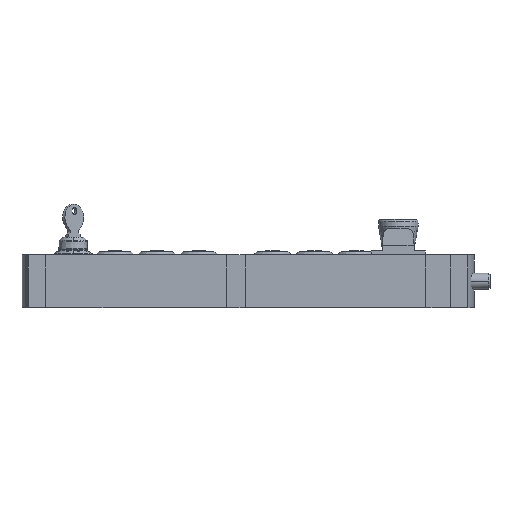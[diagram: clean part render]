
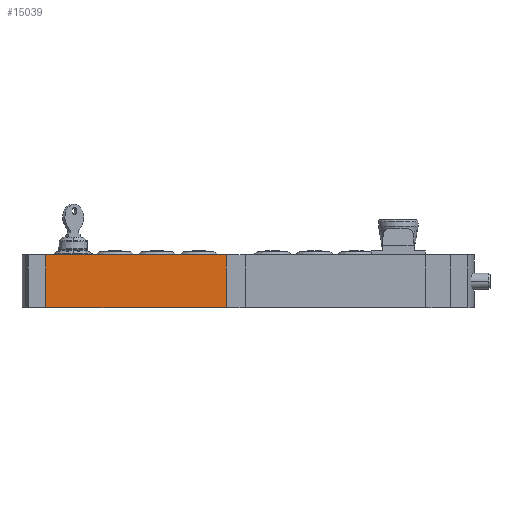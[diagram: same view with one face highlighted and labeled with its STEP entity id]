
A CAD part, left-side view. The second image highlights one B-rep face of the part: STEP entity #15039.
In plain terms, the highlighted planar face has unit normal (-1, 0, 0) as drawn and (0, 0, 1) by its records, which use the part's own axes.
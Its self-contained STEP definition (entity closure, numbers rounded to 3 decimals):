
#787 = ORIENTED_EDGE ( 'NONE', *, *, #16933, .T. ) ;
#822 = EDGE_LOOP ( 'NONE', ( #787, #5208, #20571, #6503 ) ) ;
#1605 = AXIS2_PLACEMENT_3D ( 'NONE', #8706, #31258, #11735 ) ;
#2924 = EDGE_CURVE ( 'NONE', #16541, #27056, #13500, .T. ) ;
#4048 = CARTESIAN_POINT ( 'NONE',  ( 68.35, 40., 20. ) ) ;
#4694 = VECTOR ( 'NONE', #36951, 1000. ) ;
#5208 = ORIENTED_EDGE ( 'NONE', *, *, #35706, .F. ) ;
#6150 = CARTESIAN_POINT ( 'NONE',  ( -68.35, 0., 20. ) ) ;
#6503 = ORIENTED_EDGE ( 'NONE', *, *, #2924, .T. ) ;
#8706 = CARTESIAN_POINT ( 'NONE',  ( -68.35, 40., 20. ) ) ;
#9435 = VERTEX_POINT ( 'NONE', #26372 ) ;
#11601 = VERTEX_POINT ( 'NONE', #23735 ) ;
#11735 = DIRECTION ( 'NONE',  ( -1., 0., 0. ) ) ;
#13500 = LINE ( 'NONE', #27507, #22115 ) ;
#13657 = LINE ( 'NONE', #16309, #4694 ) ;
#15039 = ADVANCED_FACE ( 'NONE', ( #20466 ), #32000, .F. ) ;
#15597 = DIRECTION ( 'NONE',  ( 0., -1., 0. ) ) ;
#16309 = CARTESIAN_POINT ( 'NONE',  ( -68.35, 40., 20. ) ) ;
#16541 = VERTEX_POINT ( 'NONE', #24804 ) ;
#16933 = EDGE_CURVE ( 'NONE', #27056, #11601, #20172, .T. ) ;
#17136 = DIRECTION ( 'NONE',  ( 1., 0., 0. ) ) ;
#18822 = LINE ( 'NONE', #4048, #19885 ) ;
#19885 = VECTOR ( 'NONE', #15597, 1000. ) ;
#20172 = LINE ( 'NONE', #6150, #29232 ) ;
#20466 = FACE_OUTER_BOUND ( 'NONE', #822, .T. ) ;
#20571 = ORIENTED_EDGE ( 'NONE', *, *, #34276, .F. ) ;
#22017 = DIRECTION ( 'NONE',  ( 0., -1., 0. ) ) ;
#22115 = VECTOR ( 'NONE', #22017, 1000. ) ;
#23735 = CARTESIAN_POINT ( 'NONE',  ( 68.35, 0., 20. ) ) ;
#24804 = CARTESIAN_POINT ( 'NONE',  ( -68.35, 40., 20. ) ) ;
#26372 = CARTESIAN_POINT ( 'NONE',  ( 68.35, 40., 20. ) ) ;
#27056 = VERTEX_POINT ( 'NONE', #27545 ) ;
#27507 = CARTESIAN_POINT ( 'NONE',  ( -68.35, 40., 20. ) ) ;
#27545 = CARTESIAN_POINT ( 'NONE',  ( -68.35, 0., 20. ) ) ;
#29232 = VECTOR ( 'NONE', #17136, 1000. ) ;
#31258 = DIRECTION ( 'NONE',  ( 0., 0., -1. ) ) ;
#32000 = PLANE ( 'NONE',  #1605 ) ;
#34276 = EDGE_CURVE ( 'NONE', #16541, #9435, #13657, .T. ) ;
#35706 = EDGE_CURVE ( 'NONE', #9435, #11601, #18822, .T. ) ;
#36951 = DIRECTION ( 'NONE',  ( 1., 0., 0. ) ) ;
